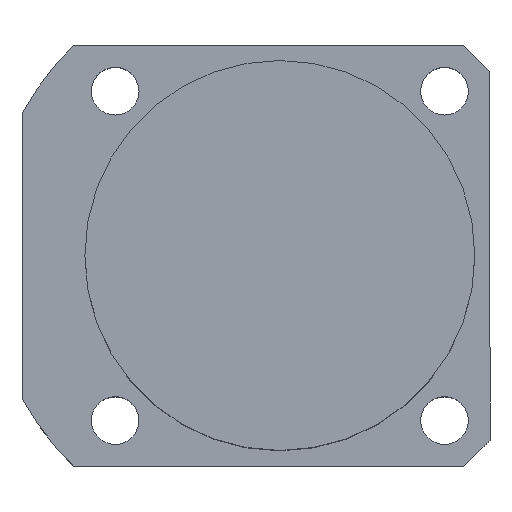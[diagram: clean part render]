
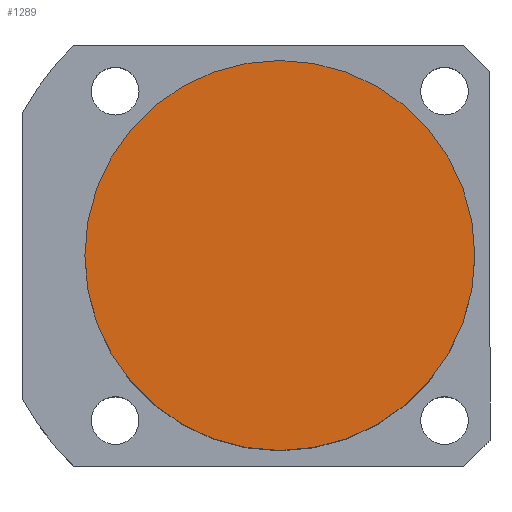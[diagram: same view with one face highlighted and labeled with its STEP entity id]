
A CAD part, top view. The second image highlights one B-rep face of the part: STEP entity #1289.
In plain terms, the highlighted planar face has unit normal (0, 0, 1).
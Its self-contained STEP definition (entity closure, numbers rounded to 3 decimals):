
#4 = EDGE_CURVE ( 'NONE', #582, #2036, #916, .T. ) ;
#66 = CARTESIAN_POINT ( 'NONE',  ( 0., 0., 64.5 ) ) ;
#202 = DIRECTION ( 'NONE',  ( 1., 0., 0. ) ) ;
#346 = AXIS2_PLACEMENT_3D ( 'NONE', #1002, #477, #482 ) ;
#406 = CARTESIAN_POINT ( 'NONE',  ( -45., 0., 64.5 ) ) ;
#477 = DIRECTION ( 'NONE',  ( 0., 0., 1. ) ) ;
#482 = DIRECTION ( 'NONE',  ( 1., 0., 0. ) ) ;
#574 = CARTESIAN_POINT ( 'NONE',  ( 45., 0., 64.5 ) ) ;
#582 = VERTEX_POINT ( 'NONE', #406 ) ;
#616 = DIRECTION ( 'NONE',  ( 1., 0., 0. ) ) ;
#629 = CARTESIAN_POINT ( 'NONE',  ( 0., 0., 64.5 ) ) ;
#780 = EDGE_CURVE ( 'NONE', #2036, #582, #1768, .T. ) ;
#821 = FACE_OUTER_BOUND ( 'NONE', #1487, .T. ) ;
#916 = CIRCLE ( 'NONE', #985, 45. ) ;
#985 = AXIS2_PLACEMENT_3D ( 'NONE', #66, #1369, #202 ) ;
#1002 = CARTESIAN_POINT ( 'NONE',  ( 0., 0., 64.5 ) ) ;
#1289 = ADVANCED_FACE ( 'NONE', ( #821 ), #1835, .T. ) ;
#1369 = DIRECTION ( 'NONE',  ( 0., 0., 1. ) ) ;
#1481 = AXIS2_PLACEMENT_3D ( 'NONE', #629, #1827, #616 ) ;
#1487 = EDGE_LOOP ( 'NONE', ( #1975, #1623 ) ) ;
#1623 = ORIENTED_EDGE ( 'NONE', *, *, #780, .T. ) ;
#1768 = CIRCLE ( 'NONE', #346, 45. ) ;
#1827 = DIRECTION ( 'NONE',  ( 0., 0., 1. ) ) ;
#1835 = PLANE ( 'NONE',  #1481 ) ;
#1975 = ORIENTED_EDGE ( 'NONE', *, *, #4, .T. ) ;
#2036 = VERTEX_POINT ( 'NONE', #574 ) ;
